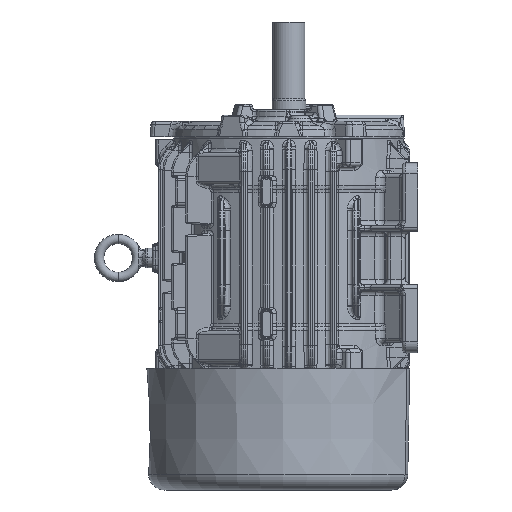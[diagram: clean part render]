
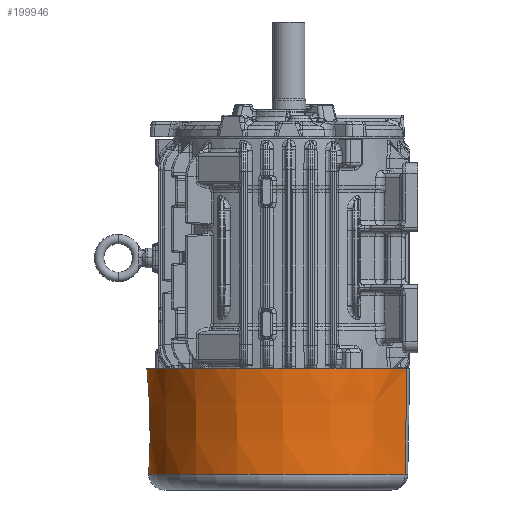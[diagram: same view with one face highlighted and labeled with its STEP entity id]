
A CAD part, left-side view. The second image highlights one B-rep face of the part: STEP entity #199946.
In plain terms, the highlighted conical face has half-angle 1 degrees and reference radius 125.281 mm.
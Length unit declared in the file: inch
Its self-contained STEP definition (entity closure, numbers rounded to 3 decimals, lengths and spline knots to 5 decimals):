
#196004=CARTESIAN_POINT('',(0.,0.,-3.70018));
#196005=DIRECTION('',(0.,0.,1.));
#196006=DIRECTION('',(0.56,-0.828,0.));
#196007=AXIS2_PLACEMENT_3D('',#196004,#196005,#196006);
#196019=CARTESIAN_POINT('',(-2.76191,-4.12542,
0.));
#196031=CARTESIAN_POINT('',(2.76191,-4.12542,0.));
#196062=CARTESIAN_POINT('',(-2.7443,-4.05943,
-3.70018));
#196063=CARTESIAN_POINT('',(-2.74576,-4.06491,
-3.39318));
#196064=CARTESIAN_POINT('',(-2.74867,-4.07577,
-2.78417));
#196065=CARTESIAN_POINT('',(-2.75284,-4.09138,
-1.90924));
#196066=CARTESIAN_POINT('',(-2.75715,-4.10756,
-1.00187));
#196067=CARTESIAN_POINT('',(-2.76029,-4.11934,
-0.34134));
#196068=CARTESIAN_POINT('',(-2.76191,-4.12542,
0.));
#196070=CARTESIAN_POINT('',(2.76191,-4.12542,0.));
#196071=CARTESIAN_POINT('',(2.76058,-4.12044,
-0.27978));
#196072=CARTESIAN_POINT('',(2.75787,-4.11024,
-0.85143));
#196073=CARTESIAN_POINT('',(2.75366,-4.09446,
-1.73641));
#196074=CARTESIAN_POINT('',(2.74919,-4.07772,
-2.67514));
#196075=CARTESIAN_POINT('',(2.74596,-4.06566,
-3.35095));
#196076=CARTESIAN_POINT('',(2.7443,-4.05943,
-3.70018));
#196078=CARTESIAN_POINT('',(0.,0.,0.));
#196079=DIRECTION('',(0.,0.,1.));
#196080=DIRECTION('',(0.556,-0.831,0.));
#196081=AXIS2_PLACEMENT_3D('',#196078,#196079,#196080);
#199064=VERTEX_POINT('',#196019);
#199067=VERTEX_POINT('',#196062);
#199071=VERTEX_POINT('',#196031);
#199072=VERTEX_POINT('',#196076);
#199935=CARTESIAN_POINT('',(0.,0.,-1.85009));
#199936=DIRECTION('',(0.,0.,1.));
#199937=DIRECTION('',(0.,1.,0.));
#199938=AXIS2_PLACEMENT_3D('',#199935,#199936,#199937);
#199939=CONICAL_SURFACE('',#199938,4.93231,1.);
#199940=ORIENTED_EDGE('',*,*,#199918,.F.);
#199941=ORIENTED_EDGE('',*,*,#199805,.F.);
#199942=ORIENTED_EDGE('',*,*,#199858,.F.);
#199943=ORIENTED_EDGE('',*,*,#199873,.T.);
#199944=EDGE_LOOP('',(#199940,#199941,#199942,#199943));
#199945=FACE_OUTER_BOUND('',#199944,.F.);
#199946=ADVANCED_FACE('',(#199945),#199939,.T.);
#196008=CIRCLE('',#196007,4.90001);
#196069=B_SPLINE_CURVE_WITH_KNOTS('',3,(#196062,#196063,#196064,#196065,#196066,
#196067,#196068),.UNSPECIFIED.,.F.,.F.,(4,1,1,1,4),(0.,0.25,0.5,0.75,
1.),.UNSPECIFIED.);
#196077=B_SPLINE_CURVE_WITH_KNOTS('',3,(#196070,#196071,#196072,#196073,#196074,
#196075,#196076),.UNSPECIFIED.,.F.,.F.,(4,1,1,1,4),(0.,0.25,0.5,0.75,
1.),.UNSPECIFIED.);
#196082=CIRCLE('',#196081,4.9646);
#199805=EDGE_CURVE('',#199072,#199067,#196008,.T.);
#199858=EDGE_CURVE('',#199071,#199072,#196077,.T.);
#199873=EDGE_CURVE('',#199071,#199064,#196082,.T.);
#199918=EDGE_CURVE('',#199067,#199064,#196069,.T.);
